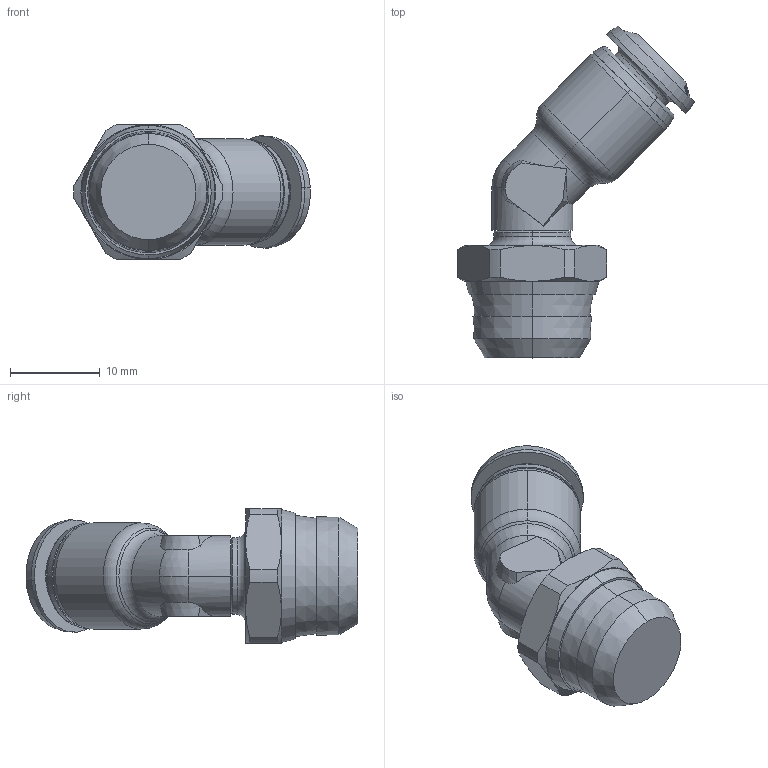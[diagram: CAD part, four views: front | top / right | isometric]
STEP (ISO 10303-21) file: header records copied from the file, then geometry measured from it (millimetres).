
FILE_DESCRIPTION (( 'STEP AP214' ), '1' );
FILE_NAME ('8517000007A.STEP', '2020-05-19T12:04:12', ( 'admin' ), ( '' ), 'SwSTEP 2.0', 'SolidWorks 2016', '' );
FILE_SCHEMA (( 'AUTOMOTIVE_DESIGN' ));
Length unit declared in the file: millimetre
Products named in the file (1): 8517000007A
Bounding box: 26.31 x 36.92 x 15 mm (x, y, z)
Volume: 3648.1 mm3; surface area: 2294.1 mm2
Topology: 1 solids, 1 shells, 157 faces, 370 edges, 231 vertices
Faces by surface type: cone 45, bspline 43, plane 35, cylinder 20, torus 12, sphere 2
Entity records: 6171 total; most frequent: CARTESIAN_POINT 2858, ORIENTED_EDGE 740, DIRECTION 577, EDGE_CURVE 370, VERTEX_POINT 231, AXIS2_PLACEMENT_3D 230, EDGE_LOOP 173, FACE_OUTER_BOUND 157
